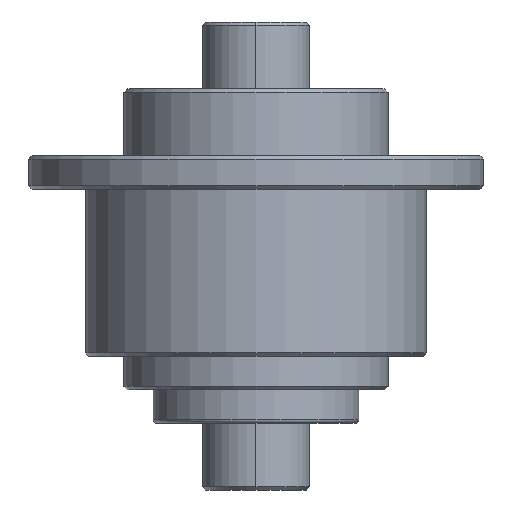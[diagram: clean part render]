
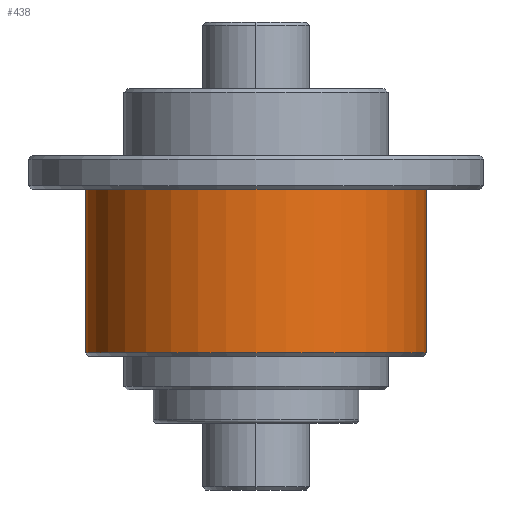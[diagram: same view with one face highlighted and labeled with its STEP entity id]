
A CAD part, left-side view. The second image highlights one B-rep face of the part: STEP entity #438.
In plain terms, the highlighted cylindrical face has radius 25.5 mm (diameter 51 mm), a partial arc.
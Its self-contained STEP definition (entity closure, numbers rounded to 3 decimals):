
#57 = CARTESIAN_POINT ( 'NONE',  ( 0., -25.5, 12. ) ) ;
#60 = DIRECTION ( 'NONE',  ( 0., 0., 1. ) ) ;
#130 = VECTOR ( 'NONE', #2370, 1000. ) ;
#189 = DIRECTION ( 'NONE',  ( 0., 0., 1. ) ) ;
#192 = CARTESIAN_POINT ( 'NONE',  ( 0., 25.5, -29.5 ) ) ;
#402 = LINE ( 'NONE', #857, #2266 ) ;
#438 = ADVANCED_FACE ( 'NONE', ( #2389 ), #2304, .T. ) ;
#532 = CARTESIAN_POINT ( 'NONE',  ( 0., -25.5, -5. ) ) ;
#549 = ORIENTED_EDGE ( 'NONE', *, *, #663, .F. ) ;
#626 = ORIENTED_EDGE ( 'NONE', *, *, #684, .T. ) ;
#635 = EDGE_LOOP ( 'NONE', ( #549, #3185, #626, #1956 ) ) ;
#663 = EDGE_CURVE ( 'NONE', #2991, #1429, #402, .T. ) ;
#684 = EDGE_CURVE ( 'NONE', #1474, #2488, #843, .T. ) ;
#824 = AXIS2_PLACEMENT_3D ( 'NONE', #1709, #189, #1966 ) ;
#843 = LINE ( 'NONE', #57, #130 ) ;
#857 = CARTESIAN_POINT ( 'NONE',  ( 0., 25.5, 12. ) ) ;
#937 = AXIS2_PLACEMENT_3D ( 'NONE', #2830, #2337, #1315 ) ;
#980 = DIRECTION ( 'NONE',  ( 0., 0., 1. ) ) ;
#1006 = CARTESIAN_POINT ( 'NONE',  ( 0., -25.5, -29.5 ) ) ;
#1079 = AXIS2_PLACEMENT_3D ( 'NONE', #2484, #980, #2809 ) ;
#1315 = DIRECTION ( 'NONE',  ( 0., -1., 0. ) ) ;
#1335 = EDGE_CURVE ( 'NONE', #2991, #1474, #1671, .T. ) ;
#1343 = EDGE_CURVE ( 'NONE', #1429, #2488, #2998, .T. ) ;
#1429 = VERTEX_POINT ( 'NONE', #2962 ) ;
#1474 = VERTEX_POINT ( 'NONE', #1006 ) ;
#1671 = CIRCLE ( 'NONE', #824, 25.5 ) ;
#1709 = CARTESIAN_POINT ( 'NONE',  ( 0., 0., -29.5 ) ) ;
#1956 = ORIENTED_EDGE ( 'NONE', *, *, #1343, .F. ) ;
#1966 = DIRECTION ( 'NONE',  ( 0., -1., 0. ) ) ;
#2266 = VECTOR ( 'NONE', #60, 1000. ) ;
#2304 = CYLINDRICAL_SURFACE ( 'NONE', #937, 25.5 ) ;
#2337 = DIRECTION ( 'NONE',  ( 0., 0., 1. ) ) ;
#2370 = DIRECTION ( 'NONE',  ( 0., 0., 1. ) ) ;
#2389 = FACE_OUTER_BOUND ( 'NONE', #635, .T. ) ;
#2484 = CARTESIAN_POINT ( 'NONE',  ( 0., 0., -5. ) ) ;
#2488 = VERTEX_POINT ( 'NONE', #532 ) ;
#2809 = DIRECTION ( 'NONE',  ( 0., -1., 0. ) ) ;
#2830 = CARTESIAN_POINT ( 'NONE',  ( 0., 0., 12. ) ) ;
#2962 = CARTESIAN_POINT ( 'NONE',  ( 0., 25.5, -5. ) ) ;
#2991 = VERTEX_POINT ( 'NONE', #192 ) ;
#2998 = CIRCLE ( 'NONE', #1079, 25.5 ) ;
#3185 = ORIENTED_EDGE ( 'NONE', *, *, #1335, .T. ) ;
